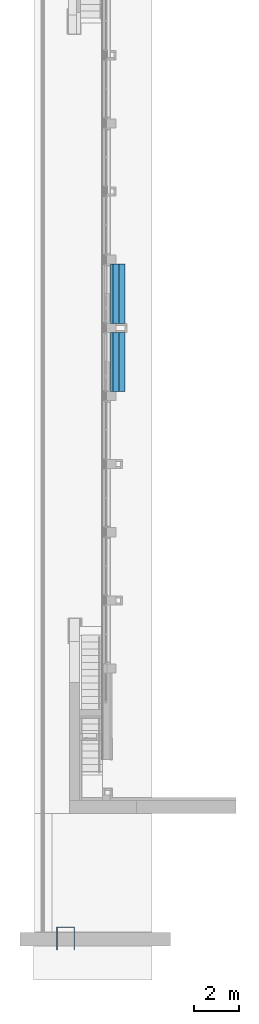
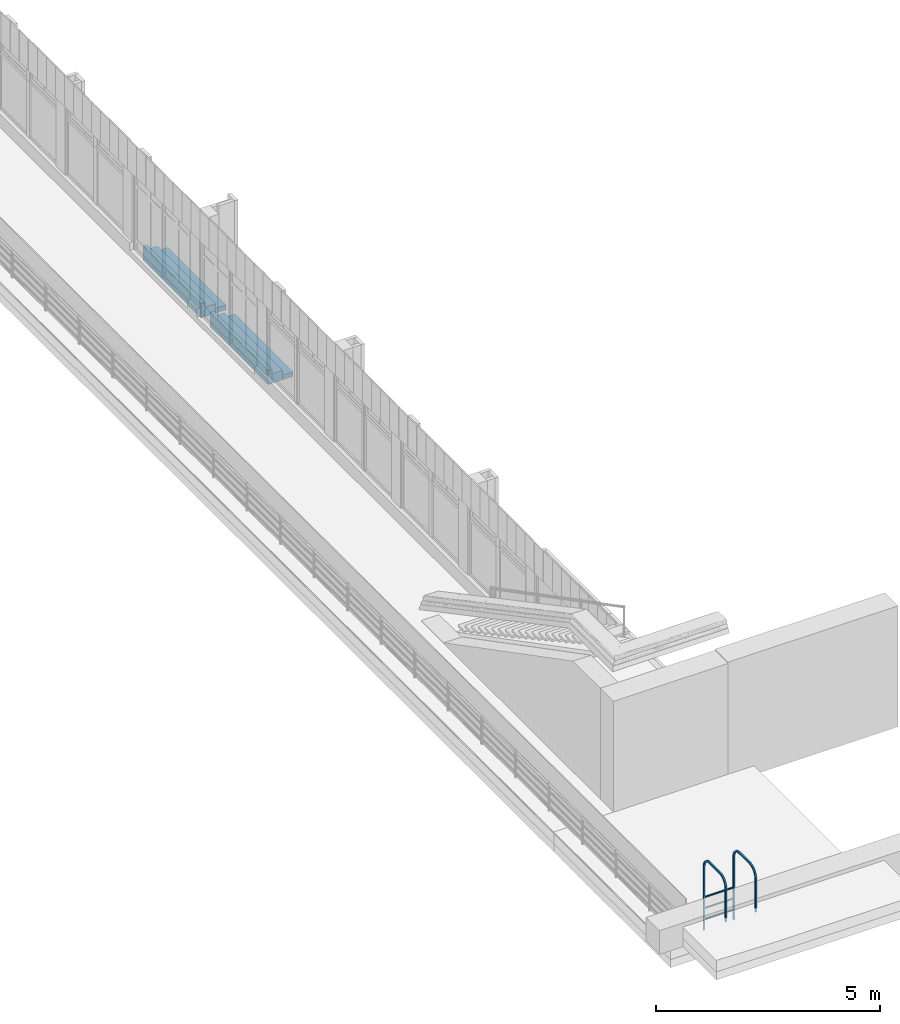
# One storey, part 9 of 16: 7 discrete accessories.
"""IFC2X3 building model written with IfcOpenShell, lengths in millimetres."""

from ifc_helpers import new_model, entity, si_unit, converted_unit, derived_unit, direction, frame, frame_2d, origin, origin_2d_with_axis, place, context, subcontext, project, spatial, polyline, circle_curve, parameter, trimmed, segment, composite_curve, rectangle, outline, extrude, source, transform, mapped, material, type_object, type_shapes, element, save


model = new_model("IFC2X3")

# Units and contexts
model_context = context("Model", 3, precision=0.01, world=origin(), true_north=direction((6.123031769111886e-17, 1.0)))
body_context = subcontext(model_context, "Body", "Model", "MODEL_VIEW")
ifc_project = project(units=[si_unit("LENGTHUNIT", "METRE", prefix="MILLI"), si_unit("AREAUNIT", "SQUARE_METRE"), si_unit("VOLUMEUNIT", "CUBIC_METRE"), converted_unit("PLANEANGLEUNIT", "DEGREE", entity("IfcPlaneAngleMeasure", 0.017453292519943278), si_unit("PLANEANGLEUNIT", "RADIAN"), dimensions=[0, 0, 0, 0, 0, 0, 0]), si_unit("MASSUNIT", "GRAM", prefix="KILO"), derived_unit("MASSDENSITYUNIT", [(si_unit("MASSUNIT", "GRAM", prefix="KILO"), 1), (si_unit("LENGTHUNIT", "METRE"), -3)]), derived_unit("IONCONCENTRATIONUNIT", [(si_unit("MASSUNIT", "GRAM", prefix="KILO"), 1), (si_unit("LENGTHUNIT", "METRE"), -3)]), derived_unit("MOMENTOFINERTIAUNIT", [(si_unit("LENGTHUNIT", "METRE"), 4)]), si_unit("TIMEUNIT", "SECOND"), si_unit("FREQUENCYUNIT", "HERTZ"), si_unit("THERMODYNAMICTEMPERATUREUNIT", "DEGREE_CELSIUS"), derived_unit("THERMALTRANSMITTANCEUNIT", [(si_unit("MASSUNIT", "GRAM", prefix="KILO"), 1), (si_unit("THERMODYNAMICTEMPERATUREUNIT", "KELVIN"), -1), (si_unit("TIMEUNIT", "SECOND"), -3)]), derived_unit("THERMALCONDUCTANCEUNIT", [(si_unit("MASSUNIT", "GRAM", prefix="KILO"), 1), (si_unit("THERMODYNAMICTEMPERATUREUNIT", "KELVIN"), -1), (si_unit("TIMEUNIT", "SECOND"), -3), (si_unit("LENGTHUNIT", "METRE"), 1)]), derived_unit("VOLUMETRICFLOWRATEUNIT", [(si_unit("LENGTHUNIT", "METRE", prefix="DECI"), 3), (si_unit("TIMEUNIT", "SECOND"), -1)]), derived_unit("MASSFLOWRATEUNIT", [(si_unit("MASSUNIT", "GRAM", prefix="KILO"), 1), (si_unit("TIMEUNIT", "SECOND"), -1)]), derived_unit("ROTATIONALFREQUENCYUNIT", [(si_unit("TIMEUNIT", "SECOND"), -1)]), si_unit("ELECTRICCURRENTUNIT", "AMPERE"), si_unit("ELECTRICVOLTAGEUNIT", "VOLT"), si_unit("POWERUNIT", "WATT"), si_unit("FORCEUNIT", "NEWTON", prefix="KILO"), si_unit("ILLUMINANCEUNIT", "LUX"), si_unit("LUMINOUSFLUXUNIT", "LUMEN"), si_unit("LUMINOUSINTENSITYUNIT", "CANDELA"), si_unit("ENERGYUNIT", "JOULE"), derived_unit("USERDEFINED", [(si_unit("MASSUNIT", "GRAM", prefix="KILO"), -1), (si_unit("LENGTHUNIT", "METRE"), -2), (si_unit("TIMEUNIT", "SECOND"), 3), (si_unit("LUMINOUSFLUXUNIT", "LUMEN"), 1)]), derived_unit("USERDEFINED", [(si_unit("MASSUNIT", "GRAM", prefix="KILO"), 1), (si_unit("TIMEUNIT", "SECOND"), -3), (si_unit("LENGTHUNIT", "METRE"), 3), (si_unit("ELECTRICCURRENTUNIT", "AMPERE"), -2)]), derived_unit("SOUNDPOWERUNIT", [(si_unit("MASSUNIT", "GRAM", prefix="KILO"), 1), (si_unit("TIMEUNIT", "SECOND"), -3), (si_unit("LENGTHUNIT", "METRE"), 2)]), derived_unit("SOUNDPRESSUREUNIT", [(si_unit("MASSUNIT", "GRAM", prefix="KILO"), 1), (si_unit("LENGTHUNIT", "METRE"), -1), (si_unit("TIMEUNIT", "SECOND"), -2)]), derived_unit("LINEARVELOCITYUNIT", [(si_unit("LENGTHUNIT", "METRE"), 1), (si_unit("TIMEUNIT", "SECOND"), -1)]), si_unit("PRESSUREUNIT", "PASCAL"), derived_unit("USERDEFINED", [(si_unit("MASSUNIT", "GRAM", prefix="KILO"), 1), (si_unit("LENGTHUNIT", "METRE"), -2), (si_unit("TIMEUNIT", "SECOND"), -2)]), derived_unit("LINEARFORCEUNIT", [(si_unit("MASSUNIT", "GRAM", prefix="KILO"), 1), (si_unit("TIMEUNIT", "SECOND"), -2)]), derived_unit("PLANARFORCEUNIT", [(si_unit("MASSUNIT", "GRAM", prefix="KILO"), 1), (si_unit("LENGTHUNIT", "METRE"), -1), (si_unit("TIMEUNIT", "SECOND"), -2)]), derived_unit("SPECIFICHEATCAPACITYUNIT", [(si_unit("THERMODYNAMICTEMPERATUREUNIT", "KELVIN"), -1), (si_unit("LENGTHUNIT", "METRE"), 2), (si_unit("TIMEUNIT", "SECOND"), -2)]), derived_unit("HEATFLUXDENSITYUNIT", [(si_unit("MASSUNIT", "GRAM", prefix="KILO"), 1), (si_unit("TIMEUNIT", "SECOND"), -3)]), derived_unit("HEATINGVALUEUNIT", [(si_unit("LENGTHUNIT", "METRE"), 2), (si_unit("TIMEUNIT", "SECOND"), -2)]), derived_unit("VAPORPERMEABILITYUNIT", [(si_unit("LENGTHUNIT", "METRE"), -1), (si_unit("TIMEUNIT", "SECOND"), 1)]), derived_unit("DYNAMICVISCOSITYUNIT", [(si_unit("MASSUNIT", "GRAM", prefix="KILO"), 1), (si_unit("TIMEUNIT", "SECOND"), -1), (si_unit("LENGTHUNIT", "METRE"), -1)]), derived_unit("THERMALEXPANSIONCOEFFICIENTUNIT", [(si_unit("THERMODYNAMICTEMPERATUREUNIT", "KELVIN"), -1)]), derived_unit("MODULUSOFELASTICITYUNIT", [(si_unit("MASSUNIT", "GRAM", prefix="KILO"), 1), (si_unit("LENGTHUNIT", "METRE"), -1), (si_unit("TIMEUNIT", "SECOND"), -2)]), derived_unit("ISOTHERMALMOISTURECAPACITYUNIT", [(si_unit("MASSUNIT", "GRAM", prefix="KILO"), -1), (si_unit("LENGTHUNIT", "METRE"), 3)]), derived_unit("MOISTUREDIFFUSIVITYUNIT", [(si_unit("TIMEUNIT", "SECOND"), -1), (si_unit("LENGTHUNIT", "METRE"), 2)]), derived_unit("MASSPERLENGTHUNIT", [(si_unit("MASSUNIT", "GRAM", prefix="KILO"), 1), (si_unit("LENGTHUNIT", "METRE"), -1)]), derived_unit("THERMALRESISTANCEUNIT", [(si_unit("MASSUNIT", "GRAM", prefix="KILO"), -1), (si_unit("TIMEUNIT", "SECOND"), 3), (si_unit("THERMODYNAMICTEMPERATUREUNIT", "KELVIN"), 1)]), derived_unit("ACCELERATIONUNIT", [(si_unit("LENGTHUNIT", "METRE"), 1), (si_unit("TIMEUNIT", "SECOND"), -2)]), derived_unit("ANGULARVELOCITYUNIT", [(si_unit("TIMEUNIT", "SECOND"), -1), (si_unit("PLANEANGLEUNIT", "RADIAN"), 1)]), derived_unit("LINEARSTIFFNESSUNIT", [(si_unit("MASSUNIT", "GRAM", prefix="KILO"), 1), (si_unit("TIMEUNIT", "SECOND"), -2)]), derived_unit("WARPINGCONSTANTUNIT", [(si_unit("LENGTHUNIT", "METRE"), 6)]), derived_unit("LINEARMOMENTUNIT", [(si_unit("MASSUNIT", "GRAM", prefix="KILO"), 1), (si_unit("LENGTHUNIT", "METRE"), 1), (si_unit("TIMEUNIT", "SECOND"), -2)]), derived_unit("TORQUEUNIT", [(si_unit("MASSUNIT", "GRAM", prefix="KILO"), 1), (si_unit("LENGTHUNIT", "METRE"), 2), (si_unit("TIMEUNIT", "SECOND"), -2)])], contexts=[model_context])

# Site, building, storey
site_placement = place(None, origin())
site = spatial("IfcSite", under=ifc_project, at=site_placement, Name="Default", CompositionType="ELEMENT")
building_placement = place(site_placement, origin())
building = spatial("IfcBuilding", under=site, at=building_placement, Name="Eesti Rahvusraamatukogu hoone renoveerimise projekteerimistööd", CompositionType="ELEMENT")
storey_placement = place(building_placement, frame((0.0, 0.0, 8250.000000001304)))
storey = spatial("IfcBuildingStorey", under=building, at=storey_placement, Name="3. korrus", CompositionType="ELEMENT", Elevation=8250.000000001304)

# Discrete accessories
ifc_material_1 = material(Name="EST. Metall. Teras. RAL9005")
discrete_accessory_type_1 = type_object("IfcDiscreteAccessoryType", Name="katuseredel11:R-01", material=ifc_material_1)
shared_shape_1 = source(origin(), body_context, "Body", "SweptSolid", [
    extrude(rectangle(XDim=29.99999999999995, YDim=730.0000000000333, at=frame_2d((0.0, -2.1600499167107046e-12), x_axis=(1.0, 0.0))), frame((-35164.0, 999.5676204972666, 9380.0000000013), z_axis=(0.0, 0.0, 1.0), x_axis=(0.0, -1.0, 0.0)), (0.0, 0.0, 1.0), 30.00000000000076),
    extrude(rectangle(XDim=29.99999999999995, YDim=729.999999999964, at=frame_2d((0.0, 2.1600499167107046e-12), x_axis=(1.0, 0.0))), frame((-35164.0, 999.5676204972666, 8780.000000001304), z_axis=(0.0, 0.0, 1.0), x_axis=(0.0, -1.0, 0.0)), (0.0, 0.0, 1.0), 30.00000000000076),
    extrude(rectangle(XDim=29.99999999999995, YDim=730.0000000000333, at=frame_2d((0.0, 2.1600499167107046e-12), x_axis=(1.0, 0.0))), frame((-35164.0, 999.5676204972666, 9080.000000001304), z_axis=(0.0, 0.0, 1.0), x_axis=(0.0, -1.0, 0.0)), (0.0, 0.0, 1.0), 30.00000000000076),
    extrude(outline(composite_curve([segment(polyline([(-352.6666666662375, 468.06186144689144), (1370.3333333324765, 468.0618614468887)]), True, "CONTINUOUS"), segment(polyline([(1370.3333333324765, 468.0618614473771), (1370.3333333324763, 508.0618614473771)]), True, "CONTINUOUS"), segment(polyline([(1370.3333333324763, 508.0618614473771), (-352.6666666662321, 508.06186144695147)]), True, "CONTINUOUS"), segment(trimmed(circle_curve(frame_2d((-352.66666666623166, 228.06186144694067), x_axis=(0.0, -1.0)), 280.0000000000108), [parameter(179.99999999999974)], [parameter(269.99999999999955)], True, "PARAMETER"), True, "CONTINUOUS"), segment(polyline([(-632.6666666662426, 228.0618614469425), (-632.6666666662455, -228.0618614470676)]), True, "CONTINUOUS"), segment(trimmed(circle_curve(frame_2d((-352.6666666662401, -228.06186144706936), x_axis=(0.0, -1.0)), 280.0000000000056), [parameter(269.99999999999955)], [parameter(0.0)], True, "PARAMETER"), True, "CONTINUOUS"), segment(polyline([(-352.6666666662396, -508.061861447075), (560.333333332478, -508.06186144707)]), True, "CONTINUOUS"), segment(polyline([(560.333333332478, -508.06186144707), (560.3333333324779, -468.0618614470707)]), True, "CONTINUOUS"), segment(polyline([(560.3333333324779, -468.0618614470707), (-352.66666666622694, -468.06186144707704)]), True, "CONTINUOUS"), segment(trimmed(circle_curve(frame_2d((-352.66666666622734, -228.06186144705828), x_axis=(0.0, -1.0)), 240.00000000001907), [parameter(269.9999999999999)], [parameter(5.088887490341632e-13)], True, "PARAMETER"), False, "CONTINUOUS"), segment(polyline([(-592.6666666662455, -228.06186144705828), (-592.6666666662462, 228.0618614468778)]), True, "CONTINUOUS"), segment(trimmed(circle_curve(frame_2d((-352.6666666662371, 228.06186144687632), x_axis=(0.0, -1.0)), 240.00000000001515), [parameter(179.99999999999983)], [parameter(269.9999999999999)], True, "PARAMETER"), False, "CONTINUOUS")], self_intersect=False)), frame((-35569.0, 511.5057590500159, 9880.333333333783), z_axis=(1.0, 0.0, 0.0), x_axis=(0.0, 0.0, -1.0)), (0.0, 0.0, 1.0), 39.99999999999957),
    extrude(outline(composite_curve([segment(trimmed(circle_curve(frame_2d((-228.06186144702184, -352.6666666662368), x_axis=(1.0, 0.0)), 280.0000000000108), [parameter(179.99999999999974)], [parameter(269.99999999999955)], True, "PARAMETER"), True, "CONTINUOUS"), segment(polyline([(-228.06186144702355, -632.6666666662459), (228.06186144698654, -632.6666666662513)]), True, "CONTINUOUS"), segment(trimmed(circle_curve(frame_2d((228.0618614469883, -352.66666666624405), x_axis=(1.0, 0.0)), 280.0000000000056), [parameter(269.99999999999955)], [parameter(0.0)], True, "PARAMETER"), True, "CONTINUOUS"), segment(polyline([(508.06186144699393, -352.66666666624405), (508.0618614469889, 560.3333333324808)]), True, "CONTINUOUS"), segment(polyline([(508.0618614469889, 560.3333333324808), (468.0618614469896, 560.3333333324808)]), True, "CONTINUOUS"), segment(polyline([(468.0618614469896, 560.3333333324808), (468.061861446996, -352.6666666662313)]), True, "CONTINUOUS"), segment(trimmed(circle_curve(frame_2d((228.06186144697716, -352.6666666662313), x_axis=(1.0, 0.0)), 240.00000000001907), [parameter(269.9999999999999)], [parameter(5.088887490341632e-13)], True, "PARAMETER"), False, "CONTINUOUS"), segment(polyline([(228.06186144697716, -592.6666666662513), (-228.06186144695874, -592.6666666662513)]), True, "CONTINUOUS"), segment(trimmed(circle_curve(frame_2d((-228.06186144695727, -352.6666666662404), x_axis=(1.0, 0.0)), 240.00000000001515), [parameter(179.99999999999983)], [parameter(269.9999999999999)], True, "PARAMETER"), False, "CONTINUOUS"), segment(polyline([(-468.0618614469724, -352.6666666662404), (-468.0618614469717, 1370.333333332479)]), True, "CONTINUOUS"), segment(polyline([(-468.0618614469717, 1370.333333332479), (-508.0618614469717, 1370.333333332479)]), True, "CONTINUOUS"), segment(polyline([(-508.0618614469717, 1370.333333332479), (-508.0618614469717, -352.6666666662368)]), True, "CONTINUOUS")], self_intersect=False)), frame((-34799.0, 511.50575905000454, 9880.333333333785), z_axis=(1.0, 0.0, 0.0), x_axis=(0.0, -1.0, 0.0)), (0.0, 0.0, 1.0), 39.999999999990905),
])
type_shapes(discrete_accessory_type_1, [shared_shape_1])
discrete_accessory_1_placement = place(storey_placement, frame((-241.0, 0.0, -8250.000000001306)))
element("IfcDiscreteAccessory", 1, at=discrete_accessory_1_placement, inside=storey, type_object=discrete_accessory_type_1, material=ifc_material_1, Name="katuseredel11:R-01", ObjectType="katuseredel11:R-01", context=body_context, shape_type="MappedRepresentation", body=[
    mapped(shared_shape_1, transform((0.0, 0.0, 0.0), scale=1.0)),
])
ifc_material_2 = material(Name="Default Floor")
discrete_accessory_type_2 = type_object("IfcDiscreteAccessoryType", Name="3K aste terrassile3:3K aste terrassile3", material=ifc_material_2)
shared_shape_2 = source(origin(), body_context, "Body", "SweptSolid", [
    extrude(rectangle(XDim=2599.9999999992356, YDim=269.99999999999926, at=origin_2d_with_axis()), frame((-33182.22948911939, 28890.0, 8250.0), z_axis=(0.0, 0.0, 1.0), x_axis=(0.0, -1.0, 0.0)), (0.0, 0.0, 1.0), 130.00000000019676),
])
type_shapes(discrete_accessory_type_2, [shared_shape_2])
discrete_accessory_2_placement = place(storey_placement, frame((270.0, 0.0, -8250.000000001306)))
element("IfcDiscreteAccessory", 2, at=discrete_accessory_2_placement, inside=storey, type_object=discrete_accessory_type_2, material=ifc_material_2, Name="3K aste terrassile3:3K aste terrassile3", ObjectType="3K aste terrassile3:3K aste terrassile3", context=body_context, shape_type="MappedRepresentation", body=[
    mapped(shared_shape_2, transform((0.0, 0.0, 0.0), scale=1.0)),
])
discrete_accessory_type_3 = type_object("IfcDiscreteAccessoryType", Name="3K astmelaiendus terrassile3:3K astmelaiendus terrassile3", material=ifc_material_2)
shared_shape_3 = source(origin(), body_context, "Body", "SweptSolid", [
    extrude(rectangle(XDim=2599.9999999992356, YDim=107.77051088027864, at=origin_2d_with_axis()), frame((-30383.88525543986, 28890.0, 14850.000000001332), z_axis=(0.0, 0.0, 1.0), x_axis=(0.0, -1.0, 0.0)), (0.0, 0.0, 1.0), 389.9999999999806),
])
type_shapes(discrete_accessory_type_3, [shared_shape_3])
discrete_accessory_3_placement = place(storey_placement, frame((-2987.229489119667, 0.0, -14850.000000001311)))
element("IfcDiscreteAccessory", 3, at=discrete_accessory_3_placement, inside=storey, type_object=discrete_accessory_type_3, material=ifc_material_2, Name="3K astmelaiendus terrassile3:3K astmelaiendus terrassile3", ObjectType="3K astmelaiendus terrassile3:3K astmelaiendus terrassile3", context=body_context, shape_type="MappedRepresentation", body=[
    mapped(shared_shape_3, transform((0.0, 0.0, 0.0), scale=1.0)),
])
discrete_accessory_type_4 = type_object("IfcDiscreteAccessoryType", Name="3K aste terrassile4:3K aste terrassile4", material=ifc_material_2)
shared_shape_4 = source(origin(), body_context, "Body", "SweptSolid", [
    extrude(rectangle(XDim=2599.9999999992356, YDim=269.99999999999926, at=origin_2d_with_axis()), frame((-33182.22948911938, 25890.0, 8250.0), z_axis=(0.0, 0.0, 1.0), x_axis=(0.0, -1.0, 0.0)), (0.0, 0.0, 1.0), 130.00000000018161),
])
type_shapes(discrete_accessory_type_4, [shared_shape_4])
discrete_accessory_4_placement = place(storey_placement, frame((270.0, 0.0, -8250.000000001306)))
element("IfcDiscreteAccessory", 4, at=discrete_accessory_4_placement, inside=storey, type_object=discrete_accessory_type_4, material=ifc_material_2, Name="3K aste terrassile4:3K aste terrassile4", ObjectType="3K aste terrassile4:3K aste terrassile4", context=body_context, shape_type="MappedRepresentation", body=[
    mapped(shared_shape_4, transform((0.0, 0.0, 0.0), scale=1.0)),
])
discrete_accessory_type_5 = type_object("IfcDiscreteAccessoryType", Name="3K astme laiendus terrassile4:3K astmelaiendus terrassile4", material=ifc_material_2)
shared_shape_5 = source(origin(), body_context, "Body", "SweptSolid", [
    extrude(rectangle(XDim=2599.9999999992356, YDim=107.77051088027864, at=origin_2d_with_axis()), frame((-30383.88525543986, 28890.0, 14850.000000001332), z_axis=(0.0, 0.0, 1.0), x_axis=(0.0, -1.0, 0.0)), (0.0, 0.0, 1.0), 389.9999999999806),
])
type_shapes(discrete_accessory_type_5, [shared_shape_5])
discrete_accessory_5_placement = place(storey_placement, frame((-2987.2294891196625, -3000.0, -14850.000000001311)))
element("IfcDiscreteAccessory", 5, at=discrete_accessory_5_placement, inside=storey, type_object=discrete_accessory_type_5, material=ifc_material_2, Name="3K astme laiendus terrassile4:3K astmelaiendus terrassile4", ObjectType="3K astme laiendus terrassile4:3K astmelaiendus terrassile4", context=body_context, shape_type="MappedRepresentation", body=[
    mapped(shared_shape_5, transform((0.0, 0.0, 0.0), scale=1.0)),
])
discrete_accessory_type_6 = type_object("IfcDiscreteAccessoryType", Name="3K aste terrassile5:3K aste terrassile4", material=ifc_material_2)
shared_shape_6 = source(origin(), body_context, "Body", "SweptSolid", [
    extrude(rectangle(XDim=2599.9999999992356, YDim=269.99999999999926, at=origin_2d_with_axis()), frame((-33182.22948911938, 25890.0, 7990.000000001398), z_axis=(0.0, 0.0, 1.0), x_axis=(0.0, -1.0, 0.0)), (0.0, 0.0, 1.0), 259.99999999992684),
])
type_shapes(discrete_accessory_type_6, [shared_shape_6])
discrete_accessory_6_placement = place(storey_placement, frame((0.0, 0.0, -7990.000000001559)))
element("IfcDiscreteAccessory", 6, at=discrete_accessory_6_placement, inside=storey, type_object=discrete_accessory_type_6, material=ifc_material_2, Name="3K aste terrassile5:3K aste terrassile4", ObjectType="3K aste terrassile5:3K aste terrassile4", context=body_context, shape_type="MappedRepresentation", body=[
    mapped(shared_shape_6, transform((0.0, 0.0, 0.0), scale=1.0)),
])
discrete_accessory_type_7 = type_object("IfcDiscreteAccessoryType", Name="3K aste terrassile8:3K aste terrassile3", material=ifc_material_2)
shared_shape_7 = source(origin(), body_context, "Body", "SweptSolid", [
    extrude(rectangle(XDim=2599.9999999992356, YDim=269.99999999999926, at=origin_2d_with_axis()), frame((-33182.22948911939, 28890.0, 7990.0000000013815), z_axis=(0.0, 0.0, 1.0), x_axis=(0.0, -1.0, 0.0)), (0.0, 0.0, 1.0), 259.99999999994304),
])
type_shapes(discrete_accessory_type_7, [shared_shape_7])
discrete_accessory_7_placement = place(storey_placement, frame((0.0, 0.0, -7990.000000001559)))
element("IfcDiscreteAccessory", 7, at=discrete_accessory_7_placement, inside=storey, type_object=discrete_accessory_type_7, material=ifc_material_2, Name="3K aste terrassile8:3K aste terrassile3", ObjectType="3K aste terrassile8:3K aste terrassile3", context=body_context, shape_type="MappedRepresentation", body=[
    mapped(shared_shape_7, transform((0.0, 0.0, 0.0), scale=1.0)),
])

save(model, "model.ifc")
